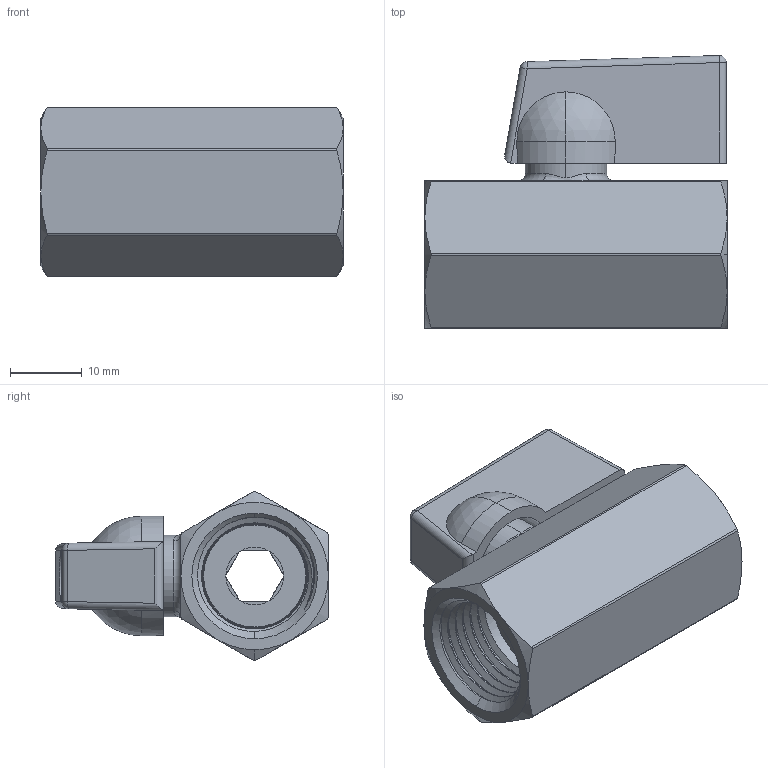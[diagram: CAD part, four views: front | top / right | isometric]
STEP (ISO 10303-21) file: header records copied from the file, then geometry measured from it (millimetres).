
FILE_DESCRIPTION (( 'STEP AP214' ), '1' );
FILE_NAME ('100-432.STEP', '2025-11-06T16:37:12', ( '' ), ( '' ), 'SwSTEP 2.0', 'SolidWorks 2025', '' );
FILE_SCHEMA (( 'AUTOMOTIVE_DESIGN' ));
Length unit declared in the file: inch
Products named in the file (10): 1070.STEP; 12_______11.STEP; 31_______13.STEP; 1070___1.STEP; 14___11.STEP; 1051_____13.STEP; 1073___2.STEP; 100-432; O-ring_13.STEP; _____13.STEP
Assembly tree (11 placements, depth 3):
  100-432
    1070.STEP
      1051_____13.STEP
      1073___2.STEP
      12_______11.STEP  x2
      14___11.STEP
      31_______13.STEP
      O-ring_13.STEP  x2
      _____13.STEP
      1070___1.STEP
Bounding box: 42 x 37.92 x 23.5 mm (x, y, z)
Volume: 13384.1 mm3; surface area: 12313.2 mm2
Topology: 10 solids, 10 shells, 338 faces, 832 edges, 523 vertices
Faces by surface type: cylinder 111, plane 89, cone 59, bspline 33, torus 26, sphere 20
Entity records: 28443 total; most frequent: CARTESIAN_POINT 20853, ORIENTED_EDGE 1576, DIRECTION 1491, EDGE_CURVE 788, AXIS2_PLACEMENT_3D 614, VERTEX_POINT 499, EDGE_LOOP 345, FACE_OUTER_BOUND 318
